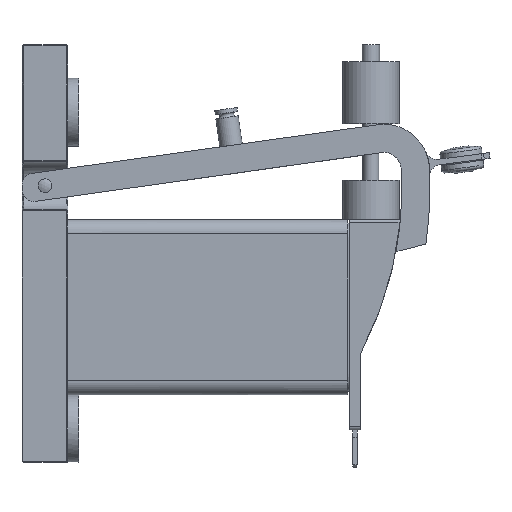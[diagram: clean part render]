
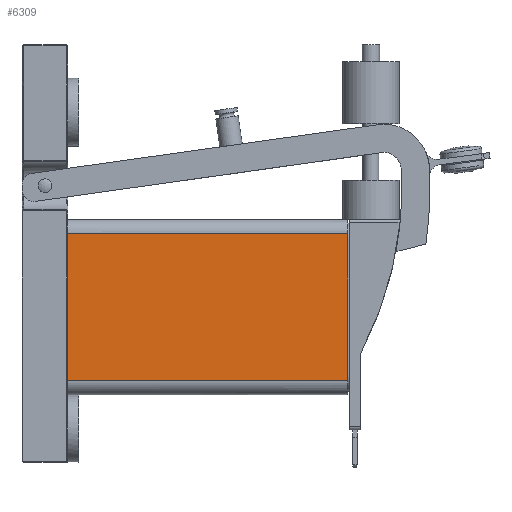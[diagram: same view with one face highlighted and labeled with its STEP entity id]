
A CAD part, left-side view. The second image highlights one B-rep face of the part: STEP entity #6309.
In plain terms, the highlighted planar face has unit normal (-1, 0, 0).
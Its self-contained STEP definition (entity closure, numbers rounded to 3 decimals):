
#157=PLANE('',#6739);
#372=FACE_OUTER_BOUND('',#718,.T.);
#718=EDGE_LOOP('',(#4188,#4189,#4190,#4191));
#1390=LINE('',#9319,#1948);
#1411=LINE('',#9381,#1969);
#1421=LINE('',#9412,#1979);
#1433=LINE('',#9451,#1991);
#1948=VECTOR('',#7456,10.);
#1969=VECTOR('',#7503,10.);
#1979=VECTOR('',#7537,10.);
#1991=VECTOR('',#7581,10.);
#2526=VERTEX_POINT('',#9304);
#2532=VERTEX_POINT('',#9317);
#2560=VERTEX_POINT('',#9380);
#2569=VERTEX_POINT('',#9410);
#3132=EDGE_CURVE('',#2532,#2526,#1390,.T.);
#3163=EDGE_CURVE('',#2526,#2560,#1411,.T.);
#3180=EDGE_CURVE('',#2569,#2532,#1421,.T.);
#3200=EDGE_CURVE('',#2560,#2569,#1433,.T.);
#4188=ORIENTED_EDGE('',*,*,#3163,.F.);
#4189=ORIENTED_EDGE('',*,*,#3132,.F.);
#4190=ORIENTED_EDGE('',*,*,#3180,.F.);
#4191=ORIENTED_EDGE('',*,*,#3200,.F.);
#6309=ADVANCED_FACE('',(#372),#157,.T.);
#6739=AXIS2_PLACEMENT_3D('',#9450,#7579,#7580);
#7456=DIRECTION('',(0.,0.,-1.));
#7503=DIRECTION('',(0.,1.,0.));
#7537=DIRECTION('',(0.,-1.,0.));
#7579=DIRECTION('center_axis',(-1.,0.,0.));
#7580=DIRECTION('ref_axis',(0.,0.,
1.));
#7581=DIRECTION('',(0.,0.,1.));
#9304=CARTESIAN_POINT('',(-16.111,-51.012,-22.5));
#9317=CARTESIAN_POINT('',(-16.111,-51.012,3.5));
#9319=CARTESIAN_POINT('',(-16.111,-51.012,-25.));
#9380=CARTESIAN_POINT('',(-16.111,-1.412,-22.5));
#9381=CARTESIAN_POINT('',(-16.111,-26.212,-22.5));
#9410=CARTESIAN_POINT('',(-16.111,-1.412,3.5));
#9412=CARTESIAN_POINT('',(-16.111,-26.212,3.5));
#9450=CARTESIAN_POINT('Origin',(-16.111,-26.212,-25.));
#9451=CARTESIAN_POINT('',(-16.111,-1.412,-25.));
